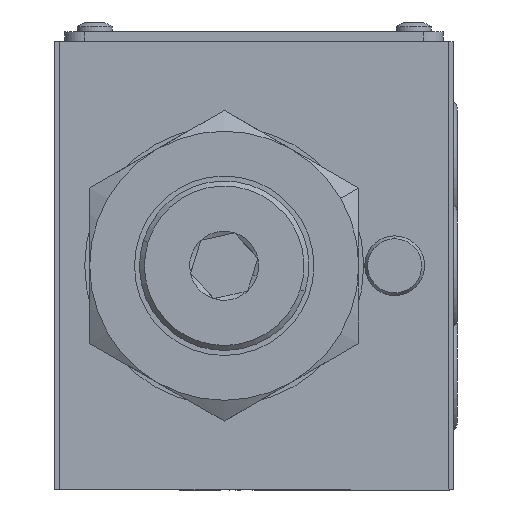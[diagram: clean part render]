
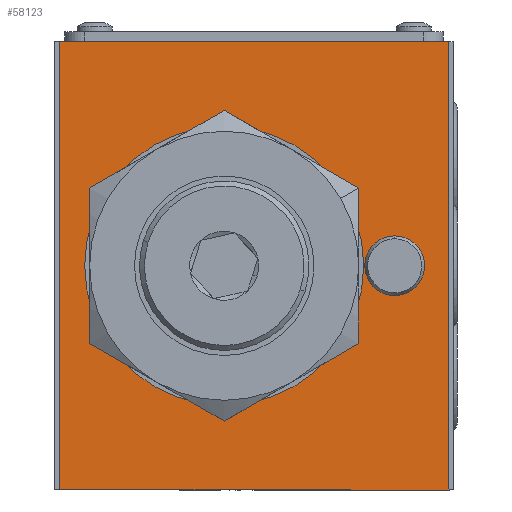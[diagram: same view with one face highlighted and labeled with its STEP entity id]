
A CAD part, left-side view. The second image highlights one B-rep face of the part: STEP entity #58123.
In plain terms, the highlighted planar face has unit normal (-1, 0, 0) as drawn and (0, 0, 1) by its records, which use the part's own axes.
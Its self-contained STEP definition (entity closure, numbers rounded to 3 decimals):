
#1056 = CARTESIAN_POINT ( 'NONE',  ( 0., 3., 46.5 ) ) ;
#3088 = VERTEX_POINT ( 'NONE', #81293 ) ;
#4342 = ORIENTED_EDGE ( 'NONE', *, *, #21840, .F. ) ;
#5360 = DIRECTION ( 'NONE',  ( 0., 0., 1. ) ) ;
#6660 = EDGE_CURVE ( 'NONE', #3088, #35359, #17031, .T. ) ;
#7162 = VERTEX_POINT ( 'NONE', #58784 ) ;
#8152 = DIRECTION ( 'NONE',  ( 1., 0., 0. ) ) ;
#10041 = EDGE_LOOP ( 'NONE', ( #53399, #4342 ) ) ;
#11513 = CIRCLE ( 'NONE', #16277, 14. ) ;
#12392 = ORIENTED_EDGE ( 'NONE', *, *, #44187, .T. ) ;
#16277 = AXIS2_PLACEMENT_3D ( 'NONE', #70994, #28730, #78160 ) ;
#16790 = CARTESIAN_POINT ( 'NONE',  ( -22.5, 20., 46.5 ) ) ;
#17031 = LINE ( 'NONE', #49700, #68944 ) ;
#20392 = ORIENTED_EDGE ( 'NONE', *, *, #45443, .T. ) ;
#21840 = EDGE_CURVE ( 'NONE', #29021, #75163, #90225, .T. ) ;
#22951 = CARTESIAN_POINT ( 'NONE',  ( 22.5, 19.5, 46.5 ) ) ;
#22988 = PLANE ( 'NONE',  #81235 ) ;
#23473 = VERTEX_POINT ( 'NONE', #65097 ) ;
#23767 = LINE ( 'NONE', #16790, #67955 ) ;
#24552 = VECTOR ( 'NONE', #32828, 1000. ) ;
#26506 = VERTEX_POINT ( 'NONE', #31646 ) ;
#27277 = DIRECTION ( 'NONE',  ( 0., 0., 1. ) ) ;
#28565 = FACE_BOUND ( 'NONE', #40578, .T. ) ;
#28730 = DIRECTION ( 'NONE',  ( 0., 0., 1. ) ) ;
#29021 = VERTEX_POINT ( 'NONE', #37962 ) ;
#29581 = DIRECTION ( 'NONE',  ( 1., 0., 0. ) ) ;
#31584 = EDGE_CURVE ( 'NONE', #75163, #29021, #11513, .T. ) ;
#31646 = CARTESIAN_POINT ( 'NONE',  ( -22.5, -19.5, 46.5 ) ) ;
#31804 = CARTESIAN_POINT ( 'NONE',  ( 14., 3., 46.5 ) ) ;
#32828 = DIRECTION ( 'NONE',  ( -1., 0., 0. ) ) ;
#35109 = CIRCLE ( 'NONE', #47441, 3. ) ;
#35359 = VERTEX_POINT ( 'NONE', #22951 ) ;
#35367 = CARTESIAN_POINT ( 'NONE',  ( 22.5, 20., 46.5 ) ) ;
#37170 = DIRECTION ( 'NONE',  ( 1., 0., 0. ) ) ;
#37962 = CARTESIAN_POINT ( 'NONE',  ( -14., 3., 46.5 ) ) ;
#40578 = EDGE_LOOP ( 'NONE', ( #87500, #79290 ) ) ;
#42267 = CARTESIAN_POINT ( 'NONE',  ( -3., -14.1, 46.5 ) ) ;
#42737 = DIRECTION ( 'NONE',  ( 0., 0., 1. ) ) ;
#43068 = EDGE_CURVE ( 'NONE', #53277, #7162, #35109, .T. ) ;
#44187 = EDGE_CURVE ( 'NONE', #3088, #26506, #23767, .T. ) ;
#45443 = EDGE_CURVE ( 'NONE', #23473, #35359, #69922, .T. ) ;
#47357 = FACE_OUTER_BOUND ( 'NONE', #55314, .T. ) ;
#47441 = AXIS2_PLACEMENT_3D ( 'NONE', #69521, #27277, #76703 ) ;
#47706 = CARTESIAN_POINT ( 'NONE',  ( 0., -14.1, 46.5 ) ) ;
#48924 = EDGE_CURVE ( 'NONE', #7162, #53277, #60770, .T. ) ;
#49700 = CARTESIAN_POINT ( 'NONE',  ( -22.5, 19.5, 46.5 ) ) ;
#50329 = AXIS2_PLACEMENT_3D ( 'NONE', #47706, #5360, #54809 ) ;
#50529 = DIRECTION ( 'NONE',  ( 0., 0., 1. ) ) ;
#53277 = VERTEX_POINT ( 'NONE', #42267 ) ;
#53399 = ORIENTED_EDGE ( 'NONE', *, *, #31584, .F. ) ;
#54809 = DIRECTION ( 'NONE',  ( 1., 0., 0. ) ) ;
#55314 = EDGE_LOOP ( 'NONE', ( #59041, #20392, #70050, #12392 ) ) ;
#58123 = ADVANCED_FACE ( 'NONE', ( #47357, #28565, #82806 ), #22988, .T. ) ;
#58784 = CARTESIAN_POINT ( 'NONE',  ( 3., -14.1, 46.5 ) ) ;
#59041 = ORIENTED_EDGE ( 'NONE', *, *, #69130, .F. ) ;
#60770 = CIRCLE ( 'NONE', #50329, 3. ) ;
#65097 = CARTESIAN_POINT ( 'NONE',  ( 22.5, -19.5, 46.5 ) ) ;
#66209 = DIRECTION ( 'NONE',  ( 0., -1., 0. ) ) ;
#67955 = VECTOR ( 'NONE', #66209, 1000. ) ;
#68944 = VECTOR ( 'NONE', #29581, 1000. ) ;
#69130 = EDGE_CURVE ( 'NONE', #23473, #26506, #80979, .T. ) ;
#69521 = CARTESIAN_POINT ( 'NONE',  ( 0., -14.1, 46.5 ) ) ;
#69922 = LINE ( 'NONE', #35367, #86609 ) ;
#70050 = ORIENTED_EDGE ( 'NONE', *, *, #6660, .F. ) ;
#70994 = CARTESIAN_POINT ( 'NONE',  ( 0., 3., 46.5 ) ) ;
#72345 = CARTESIAN_POINT ( 'NONE',  ( -22.5, -20., 46.5 ) ) ;
#75163 = VERTEX_POINT ( 'NONE', #31804 ) ;
#76087 = AXIS2_PLACEMENT_3D ( 'NONE', #1056, #50529, #8152 ) ;
#76703 = DIRECTION ( 'NONE',  ( 1., 0., 0. ) ) ;
#77688 = DIRECTION ( 'NONE',  ( 0., 1., 0. ) ) ;
#78160 = DIRECTION ( 'NONE',  ( 1., 0., 0. ) ) ;
#79290 = ORIENTED_EDGE ( 'NONE', *, *, #43068, .F. ) ;
#80979 = LINE ( 'NONE', #81697, #24552 ) ;
#81235 = AXIS2_PLACEMENT_3D ( 'NONE', #72345, #42737, #37170 ) ;
#81293 = CARTESIAN_POINT ( 'NONE',  ( -22.5, 19.5, 46.5 ) ) ;
#81697 = CARTESIAN_POINT ( 'NONE',  ( 22.5, -19.5, 46.5 ) ) ;
#82806 = FACE_BOUND ( 'NONE', #10041, .T. ) ;
#86609 = VECTOR ( 'NONE', #77688, 1000. ) ;
#87500 = ORIENTED_EDGE ( 'NONE', *, *, #48924, .F. ) ;
#90225 = CIRCLE ( 'NONE', #76087, 14. ) ;
